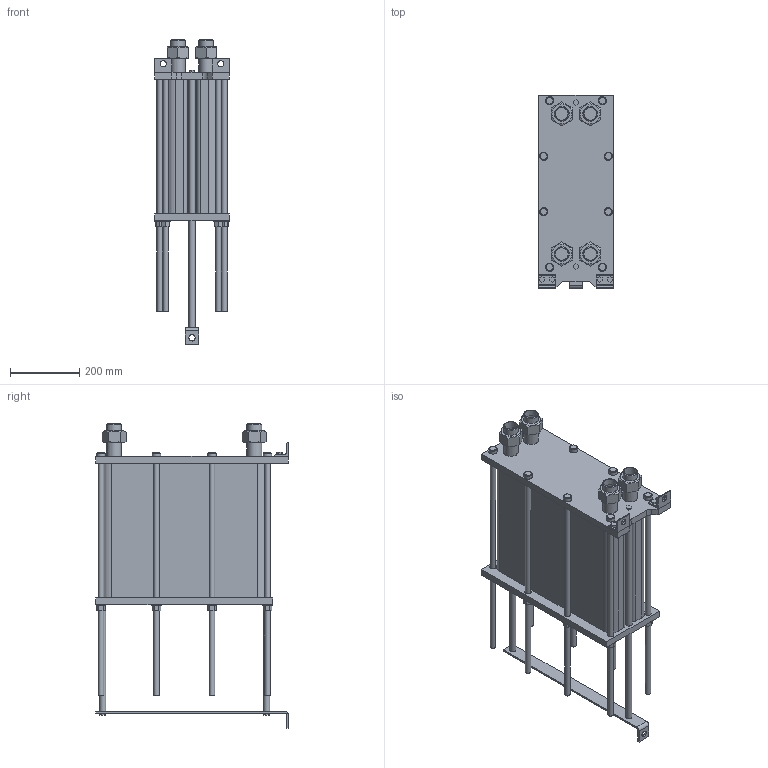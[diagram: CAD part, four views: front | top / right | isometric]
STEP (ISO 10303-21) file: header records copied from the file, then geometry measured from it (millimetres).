
FILE_DESCRIPTION(/* description */ (''),/* implementation_level */ '2;1');
FILE_NAME(/* name */ 'C:\Users\zhuro\Desktop\ENCO\TO\ЭН-004\ЭН-0,5-004-125-1.stp',/* time_stamp */ '2022-06-06T10:55:10+03:00',/* author */ ('zhuro'),/* organization */ (''),/* preprocessor_version */ 'ST-DEVELOPER v18.1',/* originating_system */ 'Autodesk Inventor 2022',/* authorisation */ '');
FILE_SCHEMA (('AUTOMOTIVE_DESIGN { 1 0 10303 214 3 1 1 }'));
Length unit declared in the file: millimetre
Products named in the file (1): ЭН-0,5-004-125-1
Bounding box: 216 x 555 x 877 mm (x, y, z)
Volume: 34903317.5 mm3; surface area: 1797571.8 mm2
Topology: 40 solids, 40 shells, 403 faces, 865 edges, 574 vertices
Faces by surface type: plane 272, cylinder 103, cone 28
Full cylindrical faces by diameter (mm): 10 x4, 16 x16, 18 x29, 20 x2, 24 x8, 28 x8, 36.3 x5, 42.3 x9
Entity records: 11137 total; most frequent: CARTESIAN_POINT 1939, DIRECTION 1879, ORIENTED_EDGE 1730, EDGE_CURVE 865, AXIS2_PLACEMENT_3D 658, VERTEX_POINT 574, LINE 563, VECTOR 563
